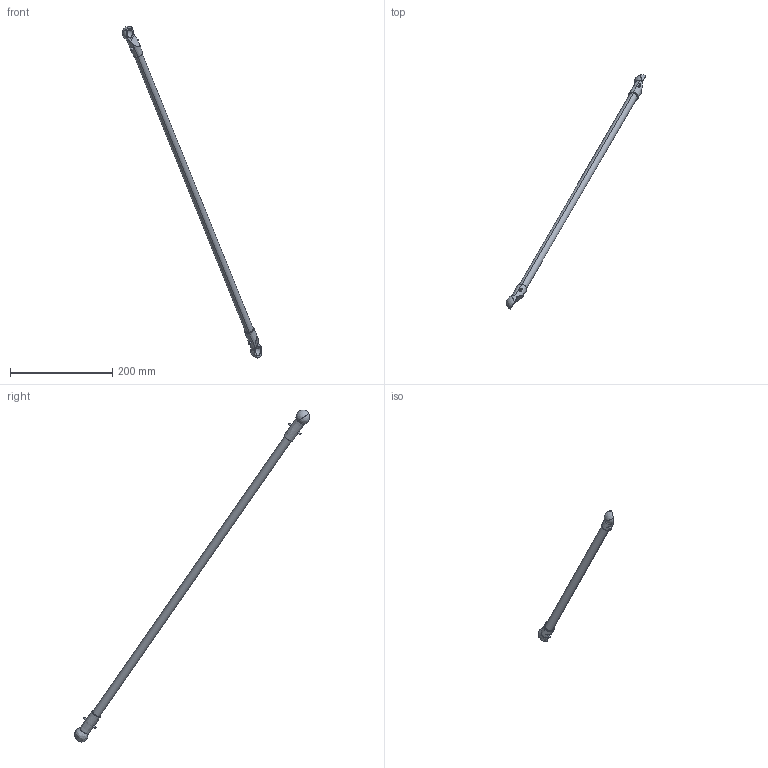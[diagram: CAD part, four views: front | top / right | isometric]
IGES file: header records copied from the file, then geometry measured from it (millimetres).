
Start section: SolidWorks IGES file using analytic representation for surfaces
Global section: file name: C:\Users\sedahar1\OneDrive - ABB\Documents\GPI local\Work Items\642287\IRB360_8-1130-STD-4D\IRB360_8-1130-STD-4D_rev03_LA2_1_CAD.IGS; native system: SolidWorks 2024; preprocessor: SolidWorks 2024; author: SEDAHAR1; date: 251103.101433; units: millimetre
Bounding box: 273.3 x 460.83 x 650.97 mm (x, y, z)
Surface area: 44609 mm2 (no closed solid volume)
Topology: 0 solids, 0 shells, 39 faces, 878 edges, 873 vertices
Faces by surface type: revolution 28, bspline 11
